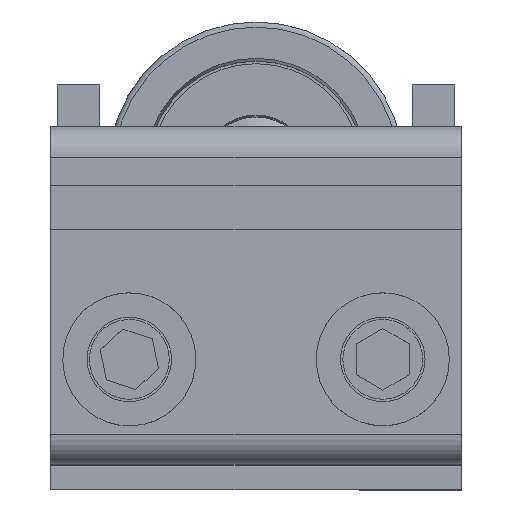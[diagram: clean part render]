
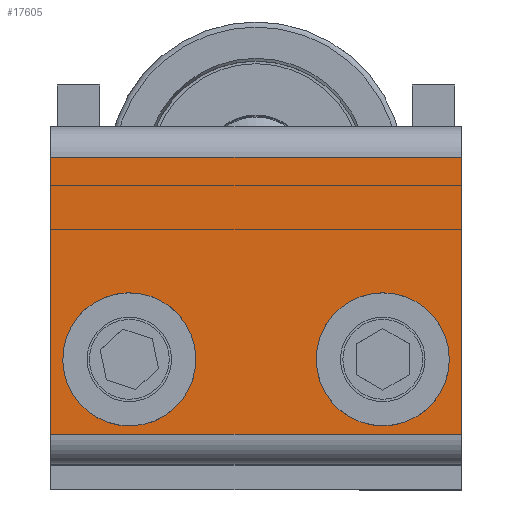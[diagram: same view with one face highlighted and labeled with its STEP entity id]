
A CAD part, top view. The second image highlights one B-rep face of the part: STEP entity #17605.
In plain terms, the highlighted planar face has unit normal (0, 0, 1) as drawn and (0, 0, -1) by its records, which use the part's own axes.
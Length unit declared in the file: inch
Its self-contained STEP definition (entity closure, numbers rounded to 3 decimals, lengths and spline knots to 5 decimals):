
#17294=DIRECTION('',(0.,-1.,0.));
#17295=VECTOR('',#17294,0.82);
#17296=CARTESIAN_POINT('',(-0.6075,0.41,-0.18));
#17297=LINE('',#17296,#17295);
#17320=DIRECTION('',(0.,-1.,0.));
#17321=VECTOR('',#17320,0.82);
#17322=CARTESIAN_POINT('',(0.6075,0.41,-0.18));
#17323=LINE('',#17322,#17321);
#17324=CARTESIAN_POINT('',(0.375,-0.188,-0.18));
#17325=DIRECTION('',(0.,0.,1.));
#17326=DIRECTION('',(1.,0.,0.));
#17327=AXIS2_PLACEMENT_3D('',#17324,#17325,#17326);
#17329=CARTESIAN_POINT('',(0.375,-0.188,-0.18));
#17330=DIRECTION('',(0.,0.,1.));
#17331=DIRECTION('',(-1.,0.,0.));
#17332=AXIS2_PLACEMENT_3D('',#17329,#17330,#17331);
#17334=CARTESIAN_POINT('',(-0.375,-0.188,-0.18));
#17335=DIRECTION('',(0.,0.,1.));
#17336=DIRECTION('',(1.,0.,0.));
#17337=AXIS2_PLACEMENT_3D('',#17334,#17335,#17336);
#17339=CARTESIAN_POINT('',(-0.375,-0.188,-0.18));
#17340=DIRECTION('',(0.,0.,1.));
#17341=DIRECTION('',(-1.,0.,0.));
#17342=AXIS2_PLACEMENT_3D('',#17339,#17340,#17341);
#17348=DIRECTION('',(-1.,0.,0.));
#17349=VECTOR('',#17348,1.215);
#17350=CARTESIAN_POINT('',(0.6075,0.41,-0.18));
#17351=LINE('',#17350,#17349);
#17352=DIRECTION('',(1.,0.,0.));
#17353=VECTOR('',#17352,1.215);
#17354=CARTESIAN_POINT('',(-0.6075,-0.41,-0.18));
#17355=LINE('',#17354,#17353);
#17440=CARTESIAN_POINT('',(0.6075,0.41,-0.18));
#17442=VERTEX_POINT('',#17440);
#17448=CARTESIAN_POINT('',(0.6075,-0.41,-0.18));
#17449=VERTEX_POINT('',#17448);
#17451=CARTESIAN_POINT('',(-0.25,-0.188,-0.18));
#17453=VERTEX_POINT('',#17451);
#17456=CARTESIAN_POINT('',(-0.5,-0.188,-0.18));
#17457=VERTEX_POINT('',#17456);
#17482=CARTESIAN_POINT('',(0.25,-0.188,-0.18));
#17483=CARTESIAN_POINT('',(0.5,-0.188,-0.18));
#17484=VERTEX_POINT('',#17482);
#17485=VERTEX_POINT('',#17483);
#17486=CARTESIAN_POINT('',(-0.6075,-0.41,-0.18));
#17487=VERTEX_POINT('',#17486);
#17494=CARTESIAN_POINT('',(-0.6075,0.41,-0.18));
#17495=VERTEX_POINT('',#17494);
#17580=CARTESIAN_POINT('',(0.6075,0.5,-0.18));
#17581=DIRECTION('',(0.,0.,1.));
#17582=DIRECTION('',(0.,-1.,0.));
#17583=AXIS2_PLACEMENT_3D('',#17580,#17581,#17582);
#17584=PLANE('',#17583);
#17585=ORIENTED_EDGE('',*,*,#17532,.F.);
#17587=ORIENTED_EDGE('',*,*,#17586,.T.);
#17588=ORIENTED_EDGE('',*,*,#17559,.T.);
#17590=ORIENTED_EDGE('',*,*,#17589,.T.);
#17591=EDGE_LOOP('',(#17585,#17587,#17588,#17590));
#17592=FACE_OUTER_BOUND('',#17591,.F.);
#17594=ORIENTED_EDGE('',*,*,#17593,.F.);
#17596=ORIENTED_EDGE('',*,*,#17595,.F.);
#17597=EDGE_LOOP('',(#17594,#17596));
#17598=FACE_BOUND('',#17597,.F.);
#17600=ORIENTED_EDGE('',*,*,#17599,.F.);
#17602=ORIENTED_EDGE('',*,*,#17601,.F.);
#17603=EDGE_LOOP('',(#17600,#17602));
#17604=FACE_BOUND('',#17603,.F.);
#17328=CIRCLE('',#17327,0.125);
#17333=CIRCLE('',#17332,0.125);
#17338=CIRCLE('',#17337,0.125);
#17343=CIRCLE('',#17342,0.125);
#17532=EDGE_CURVE('',#17442,#17449,#17323,.T.);
#17559=EDGE_CURVE('',#17495,#17487,#17297,.T.);
#17586=EDGE_CURVE('',#17442,#17495,#17351,.T.);
#17589=EDGE_CURVE('',#17487,#17449,#17355,.T.);
#17593=EDGE_CURVE('',#17485,#17484,#17328,.T.);
#17595=EDGE_CURVE('',#17484,#17485,#17333,.T.);
#17599=EDGE_CURVE('',#17453,#17457,#17338,.T.);
#17601=EDGE_CURVE('',#17457,#17453,#17343,.T.);
#17605=ADVANCED_FACE('',(#17592,#17598,#17604),#17584,.F.);
